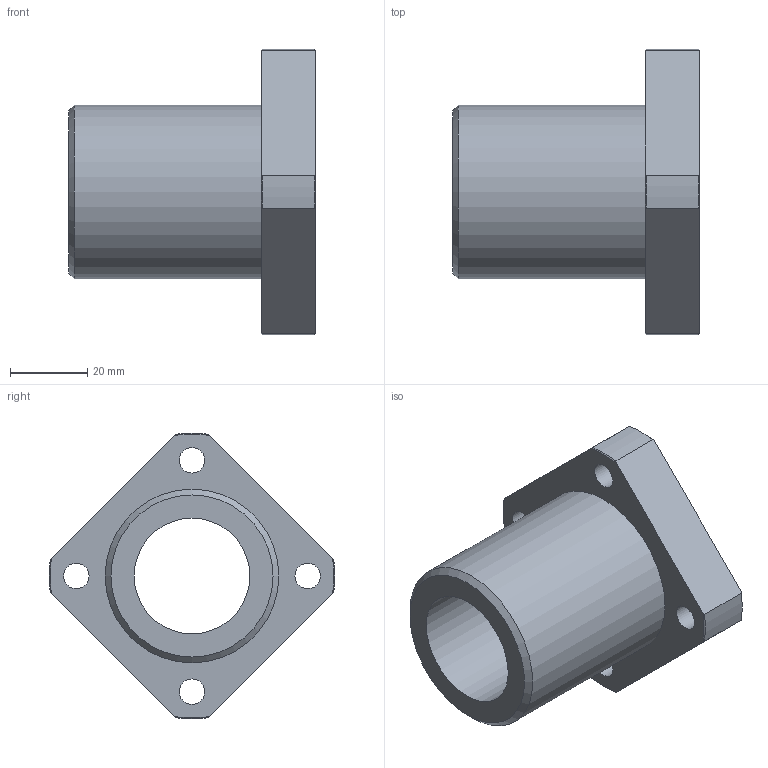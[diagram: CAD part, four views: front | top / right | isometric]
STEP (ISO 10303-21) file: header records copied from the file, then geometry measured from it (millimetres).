
FILE_DESCRIPTION(('STEP AP203'),'1');
FILE_NAME('//192.168.1.1/share/s-4 技術開発/s-4-4_CAD/s-4-4-3_見直し済み/PBC LINEAR修正済み/3D途中/SFPJ/SFPJ/SFPJ30.step','2022-03-24T05:50:27',(' '),(' '),'Spatial InterOp 3D',' ',' ');
FILE_SCHEMA(('CONFIG_CONTROL_DESIGN'));
Length unit declared in the file: millimetre
Products named in the file (1): 1
Bounding box: 64 x 73.95 x 73.95 mm (x, y, z)
Volume: 76883.9 mm3; surface area: 22419.2 mm2
Topology: 1 solids, 1 shells, 34 faces, 84 edges, 57 vertices
Faces by surface type: cylinder 14, plane 11, cone 9
Full cylindrical faces by diameter (mm): 6.6 x4, 11 x4, 30 x1, 45 x1
Entity records: 1018 total; most frequent: CARTESIAN_POINT 205, DIRECTION 160, ORIENTED_EDGE 138, AXIS2_PLACEMENT_3D 72, EDGE_CURVE 69, EDGE_LOOP 60, VERTEX_POINT 53, FACE_OUTER_BOUND 44
